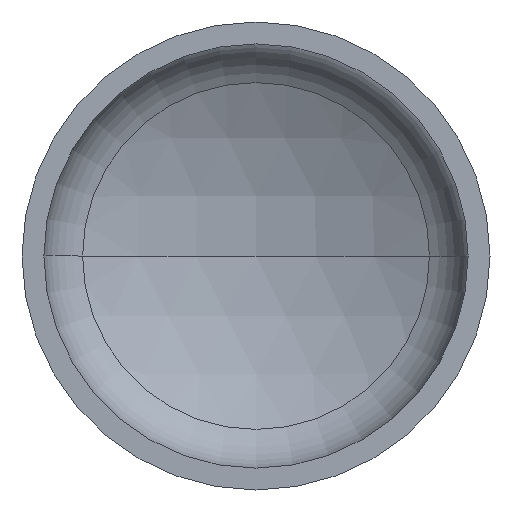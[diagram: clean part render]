
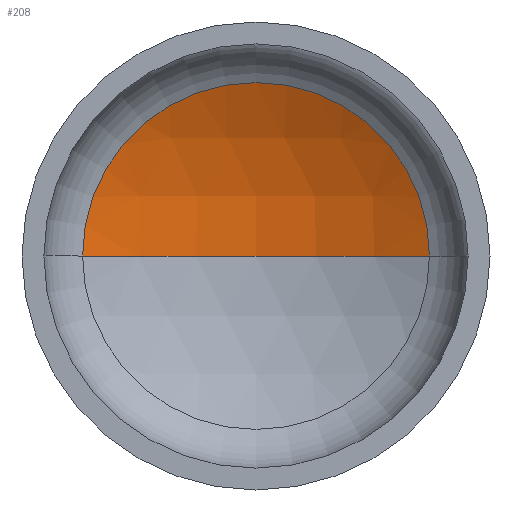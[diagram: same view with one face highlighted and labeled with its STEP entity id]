
A CAD part, front view. The second image highlights one B-rep face of the part: STEP entity #208.
In plain terms, the highlighted spherical face has radius 1920 mm.
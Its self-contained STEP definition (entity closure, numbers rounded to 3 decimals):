
#8 = VERTEX_POINT ( 'NONE', #313 ) ;
#32 = AXIS2_PLACEMENT_3D ( 'NONE', #190, #272, #361 ) ;
#33 = DIRECTION ( 'NONE',  ( 1., 0., 0. ) ) ;
#41 = ORIENTED_EDGE ( 'NONE', *, *, #157, .T. ) ;
#43 = VERTEX_POINT ( 'NONE', #235 ) ;
#48 = AXIS2_PLACEMENT_3D ( 'NONE', #335, #356, #234 ) ;
#51 = AXIS2_PLACEMENT_3D ( 'NONE', #298, #316, #237 ) ;
#53 = ORIENTED_EDGE ( 'NONE', *, *, #178, .F. ) ;
#60 = AXIS2_PLACEMENT_3D ( 'NONE', #386, #262, #33 ) ;
#82 = VERTEX_POINT ( 'NONE', #383 ) ;
#123 = EDGE_LOOP ( 'NONE', ( #53, #41, #284 ) ) ;
#136 = CIRCLE ( 'NONE', #51, 1920. ) ;
#140 = EDGE_CURVE ( 'NONE', #8, #43, #409, .T. ) ;
#157 = EDGE_CURVE ( 'NONE', #82, #8, #136, .T. ) ;
#158 = CIRCLE ( 'NONE', #48, 1920. ) ;
#178 = EDGE_CURVE ( 'NONE', #82, #43, #158, .T. ) ;
#190 = CARTESIAN_POINT ( 'NONE',  ( 0., -1298.672, 0. ) ) ;
#208 = ADVANCED_FACE ( 'NONE', ( #211 ), #382, .F. ) ;
#211 = FACE_OUTER_BOUND ( 'NONE', #123, .T. ) ;
#234 = DIRECTION ( 'NONE',  ( 1., 0., 0. ) ) ;
#235 = CARTESIAN_POINT ( 'NONE',  ( -889.394, 402.909, 0. ) ) ;
#237 = DIRECTION ( 'NONE',  ( -1., 0., 0. ) ) ;
#262 = DIRECTION ( 'NONE',  ( 0., -1., 0. ) ) ;
#272 = DIRECTION ( 'NONE',  ( 0., 0., -1. ) ) ;
#284 = ORIENTED_EDGE ( 'NONE', *, *, #140, .T. ) ;
#298 = CARTESIAN_POINT ( 'NONE',  ( 0., -1298.672, 0. ) ) ;
#313 = CARTESIAN_POINT ( 'NONE',  ( 889.394, 402.909, 0. ) ) ;
#316 = DIRECTION ( 'NONE',  ( 0., 0., -1. ) ) ;
#335 = CARTESIAN_POINT ( 'NONE',  ( 0., -1298.672, 0. ) ) ;
#356 = DIRECTION ( 'NONE',  ( 0., 0., 1. ) ) ;
#361 = DIRECTION ( 'NONE',  ( -1., 0., 0. ) ) ;
#382 = SPHERICAL_SURFACE ( 'NONE', #32, 1920. ) ;
#383 = CARTESIAN_POINT ( 'NONE',  ( 0., 621.328, 0. ) ) ;
#386 = CARTESIAN_POINT ( 'NONE',  ( 0., 402.909, 0. ) ) ;
#409 = CIRCLE ( 'NONE', #60, 889.394 ) ;
